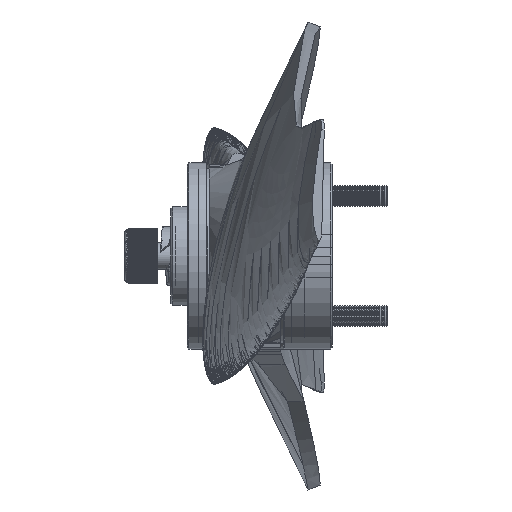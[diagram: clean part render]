
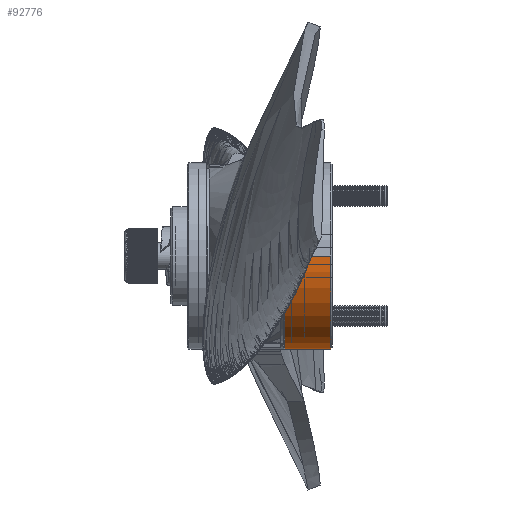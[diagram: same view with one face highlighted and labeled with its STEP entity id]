
A CAD part, left-side view. The second image highlights one B-rep face of the part: STEP entity #92776.
In plain terms, the highlighted cylindrical face has radius 17 mm (diameter 34 mm), a partial arc.
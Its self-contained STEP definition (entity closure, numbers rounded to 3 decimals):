
#2004 = EDGE_CURVE ( 'NONE', #75439, #44751, #38728, .T. ) ;
#2163 = DIRECTION ( 'NONE',  ( 0., -1., 0. ) ) ;
#4041 = VECTOR ( 'NONE', #61235, 1000. ) ;
#7636 = CARTESIAN_POINT ( 'NONE',  ( -52., -8.7, 0. ) ) ;
#12030 = DIRECTION ( 'NONE',  ( 1., 0., 0. ) ) ;
#12571 = DIRECTION ( 'NONE',  ( 0., 1., 0. ) ) ;
#14086 = ORIENTED_EDGE ( 'NONE', *, *, #42868, .F. ) ;
#14901 = CYLINDRICAL_SURFACE ( 'NONE', #74563, 17. ) ;
#26638 = CARTESIAN_POINT ( 'NONE',  ( -52., -0.3, 0. ) ) ;
#28030 = CARTESIAN_POINT ( 'NONE',  ( -52., 0., 0. ) ) ;
#30321 = EDGE_CURVE ( 'NONE', #103760, #75439, #95414, .T. ) ;
#35386 = DIRECTION ( 'NONE',  ( 1., 0., 0. ) ) ;
#38728 = CIRCLE ( 'NONE', #87463, 17. ) ;
#38831 = FACE_OUTER_BOUND ( 'NONE', #46059, .T. ) ;
#42868 = EDGE_CURVE ( 'NONE', #70767, #44751, #54709, .T. ) ;
#44751 = VERTEX_POINT ( 'NONE', #7636 ) ;
#46059 = EDGE_LOOP ( 'NONE', ( #14086, #66572, #89645, #75896 ) ) ;
#46612 = CARTESIAN_POINT ( 'NONE',  ( -35., -0.3, -17. ) ) ;
#46692 = CARTESIAN_POINT ( 'NONE',  ( -35., -8.7, -17. ) ) ;
#52998 = VECTOR ( 'NONE', #85640, 1000. ) ;
#54709 = LINE ( 'NONE', #28030, #4041 ) ;
#56084 = EDGE_CURVE ( 'NONE', #70767, #103760, #86618, .T. ) ;
#61235 = DIRECTION ( 'NONE',  ( 0., -1., 0. ) ) ;
#66572 = ORIENTED_EDGE ( 'NONE', *, *, #56084, .T. ) ;
#70767 = VERTEX_POINT ( 'NONE', #26638 ) ;
#72722 = AXIS2_PLACEMENT_3D ( 'NONE', #76731, #2163, #35386 ) ;
#74563 = AXIS2_PLACEMENT_3D ( 'NONE', #98187, #79660, #97624 ) ;
#75439 = VERTEX_POINT ( 'NONE', #46692 ) ;
#75896 = ORIENTED_EDGE ( 'NONE', *, *, #2004, .T. ) ;
#76731 = CARTESIAN_POINT ( 'NONE',  ( -35., -0.3, 0. ) ) ;
#78504 = CARTESIAN_POINT ( 'NONE',  ( -35., 0., -17. ) ) ;
#79660 = DIRECTION ( 'NONE',  ( 0., -1., 0. ) ) ;
#85640 = DIRECTION ( 'NONE',  ( 0., -1., 0. ) ) ;
#86618 = CIRCLE ( 'NONE', #72722, 17. ) ;
#86622 = CARTESIAN_POINT ( 'NONE',  ( -35., -8.7, 0. ) ) ;
#87463 = AXIS2_PLACEMENT_3D ( 'NONE', #86622, #12571, #12030 ) ;
#89645 = ORIENTED_EDGE ( 'NONE', *, *, #30321, .T. ) ;
#92776 = ADVANCED_FACE ( 'NONE', ( #38831 ), #14901, .T. ) ;
#95414 = LINE ( 'NONE', #78504, #52998 ) ;
#97624 = DIRECTION ( 'NONE',  ( -1., 0., 0. ) ) ;
#98187 = CARTESIAN_POINT ( 'NONE',  ( -35., 0., 0. ) ) ;
#103760 = VERTEX_POINT ( 'NONE', #46612 ) ;
